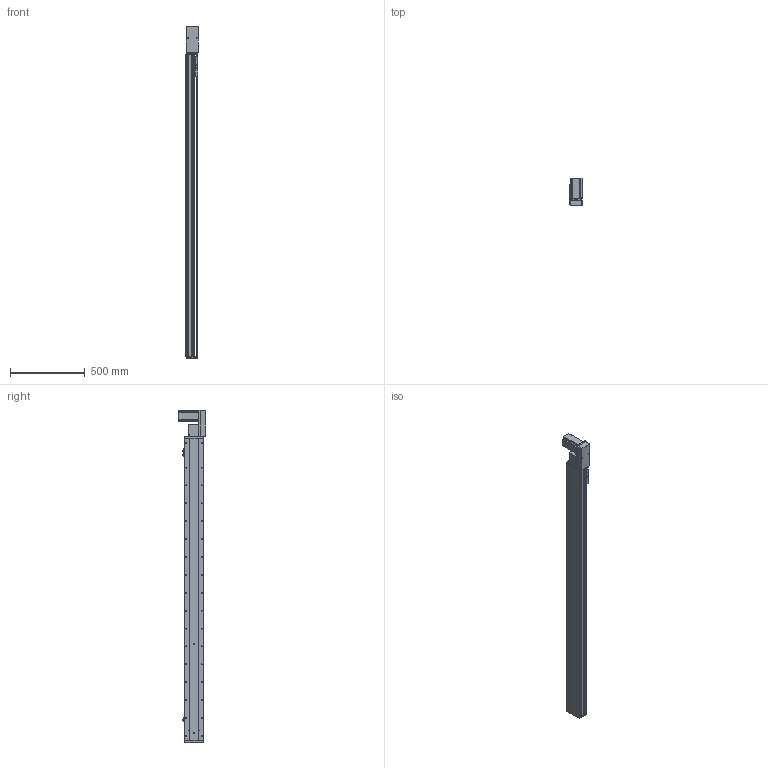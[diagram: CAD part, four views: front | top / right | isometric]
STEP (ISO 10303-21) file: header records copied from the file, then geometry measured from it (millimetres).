
FILE_DESCRIPTION (( 'STEP AP214' ), '1' );
FILE_NAME ('KSD130B-S1800-MLB-CM.STEP', '2019-09-19T09:00:54', ( '微软用户' ), ( '微软中国' ), 'SwSTEP 2.0', 'SolidWorks 2014', '' );
FILE_SCHEMA (( 'AUTOMOTIVE_DESIGN' ));
Length unit declared in the file: millimetre
Products named in the file (12): 台达ECMA－C20807AS伺服电机; 130宽模组保护罩上下左右折-同步带; 130宽模组马达安装板连板左右折同步带; 覜茼え100遵圉猾敕; U倰嫖萇EEㄜSX672; 130宽盖板半封闭同步带-1800行程; 130宽马达安装板同步带左-改; 130宽马达安装板同步带半封闭; 130宽同步带安装座半封闭; 130宽端盖同步带半封闭; 130宽底板半封闭同步带-1800行程; KSD130B-S1800-MLB-CM
Assembly tree (13 placements, depth 2):
  KSD130B-S1800-MLB-CM
    130宽底板半封闭同步带-1800行程
    130宽端盖同步带半封闭
    130宽同步带安装座半封闭
    130宽马达安装板同步带半封闭
    130宽马达安装板同步带左-改
    130宽盖板半封闭同步带-1800行程
    U倰嫖萇EEㄜSX672  x3
    覜茼え100遵圉猾敕
    130宽模组马达安装板连板左右折同步带
    130宽模组保护罩上下左右折-同步带
    台达ECMA－C20807AS伺服电机
Bounding box: 82.5 x 184.8 x 2227 mm (x, y, z)
Volume: 7147300 mm3; surface area: 2023778.9 mm2
Topology: 14 solids, 14 shells, 1727 faces, 5021 edges, 3181 vertices
Faces by surface type: cylinder 850, plane 650, cone 227
Entity records: 58799 total; most frequent: CARTESIAN_POINT 11358, DIRECTION 8859, ORIENTED_EDGE 8574, EDGE_CURVE 4287, AXIS2_PLACEMENT_3D 3262, VERTEX_POINT 2805, LINE 2335, VECTOR 2335
